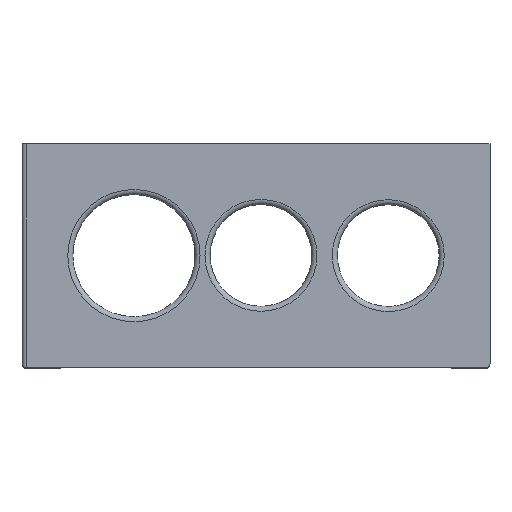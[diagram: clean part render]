
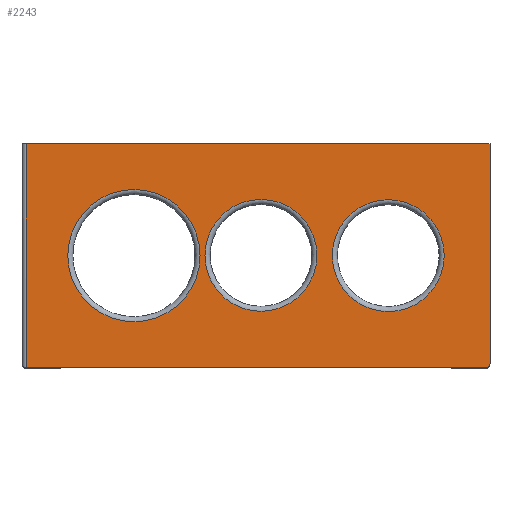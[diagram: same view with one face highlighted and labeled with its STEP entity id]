
A CAD part, top view. The second image highlights one B-rep face of the part: STEP entity #2243.
In plain terms, the highlighted planar face has unit normal (0, 0, 1).
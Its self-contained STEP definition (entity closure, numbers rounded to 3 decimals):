
#35=FACE_BOUND('',#277,.T.);
#36=FACE_BOUND('',#278,.T.);
#37=FACE_BOUND('',#279,.T.);
#68=PLANE('',#2401);
#141=FACE_OUTER_BOUND('',#276,.T.);
#276=EDGE_LOOP('',(#1559,#1560,#1561,#1562,#1563));
#277=EDGE_LOOP('',(#1564));
#278=EDGE_LOOP('',(#1565));
#279=EDGE_LOOP('',(#1566));
#436=LINE('',#3352,#654);
#438=LINE('',#3358,#656);
#451=LINE('',#3404,#669);
#452=LINE('',#3407,#670);
#654=VECTOR('',#2645,10.);
#656=VECTOR('',#2651,10.);
#669=VECTOR('',#2686,10.);
#670=VECTOR('',#2689,10.);
#883=CIRCLE('',#2402,2.);
#884=CIRCLE('',#2403,27.5);
#885=CIRCLE('',#2404,32.5);
#886=CIRCLE('',#2405,27.5);
#987=VERTEX_POINT('',#3347);
#988=VERTEX_POINT('',#3351);
#990=VERTEX_POINT('',#3357);
#1012=VERTEX_POINT('',#3403);
#1013=VERTEX_POINT('',#3405);
#1014=VERTEX_POINT('',#3408);
#1015=VERTEX_POINT('',#3410);
#1016=VERTEX_POINT('',#3412);
#1196=EDGE_CURVE('',#987,#988,#436,.T.);
#1199=EDGE_CURVE('',#988,#990,#438,.T.);
#1222=EDGE_CURVE('',#1012,#987,#451,.T.);
#1223=EDGE_CURVE('',#1013,#1012,#883,.T.);
#1224=EDGE_CURVE('',#990,#1013,#452,.T.);
#1225=EDGE_CURVE('',#1014,#1014,#884,.T.);
#1226=EDGE_CURVE('',#1015,#1015,#885,.T.);
#1227=EDGE_CURVE('',#1016,#1016,#886,.T.);
#1559=ORIENTED_EDGE('',*,*,#1196,.F.);
#1560=ORIENTED_EDGE('',*,*,#1222,.F.);
#1561=ORIENTED_EDGE('',*,*,#1223,.F.);
#1562=ORIENTED_EDGE('',*,*,#1224,.F.);
#1563=ORIENTED_EDGE('',*,*,#1199,.F.);
#1564=ORIENTED_EDGE('',*,*,#1225,.F.);
#1565=ORIENTED_EDGE('',*,*,#1226,.F.);
#1566=ORIENTED_EDGE('',*,*,#1227,.F.);
#2243=ADVANCED_FACE('',(#141,#35,#36,#37),#68,.F.);
#2401=AXIS2_PLACEMENT_3D('',#3402,#2684,#2685);
#2402=AXIS2_PLACEMENT_3D('',#3406,#2687,#2688);
#2403=AXIS2_PLACEMENT_3D('',#3409,#2690,#2691);
#2404=AXIS2_PLACEMENT_3D('',#3411,#2692,#2693);
#2405=AXIS2_PLACEMENT_3D('',#3413,#2694,#2695);
#2645=DIRECTION('',(0.,1.,0.));
#2651=DIRECTION('',(1.,0.,0.));
#2684=DIRECTION('center_axis',(0.,0.,-1.));
#2685=DIRECTION('ref_axis',(-1.,0.,0.));
#2686=DIRECTION('',(-1.,0.,0.));
#2687=DIRECTION('center_axis',(0.,0.,-1.));
#2688=DIRECTION('ref_axis',(0.707,-0.707,0.));
#2689=DIRECTION('',(0.,-1.,0.));
#2690=DIRECTION('center_axis',(0.,0.,1.));
#2691=DIRECTION('ref_axis',(-1.,0.,0.));
#2692=DIRECTION('center_axis',(0.,0.,1.));
#2693=DIRECTION('ref_axis',(-1.,0.,0.));
#2694=DIRECTION('center_axis',(0.,0.,1.));
#2695=DIRECTION('ref_axis',(-1.,0.,0.));
#3347=CARTESIAN_POINT('',(-136.501,2.824,204.994));
#3351=CARTESIAN_POINT('',(-136.501,112.824,204.994));
#3352=CARTESIAN_POINT('',(-136.501,30.324,204.994));
#3357=CARTESIAN_POINT('',(91.499,112.824,204.994));
#3358=CARTESIAN_POINT('',(-61.751,112.824,204.994));
#3402=CARTESIAN_POINT('Origin',(-23.501,57.824,204.994));
#3403=CARTESIAN_POINT('',(89.499,2.824,204.994));
#3404=CARTESIAN_POINT('',(91.499,2.824,204.994));
#3405=CARTESIAN_POINT('',(91.499,4.824,204.994));
#3406=CARTESIAN_POINT('Origin',(89.499,4.824,204.994));
#3407=CARTESIAN_POINT('',(91.499,85.324,204.994));
#3408=CARTESIAN_POINT('',(68.999,57.824,204.994));
#3409=CARTESIAN_POINT('Origin',(41.499,57.824,204.994));
#3410=CARTESIAN_POINT('',(-51.001,57.824,204.994));
#3411=CARTESIAN_POINT('Origin',(-83.501,57.824,204.994));
#3412=CARTESIAN_POINT('',(6.432,57.932,204.994));
#3413=CARTESIAN_POINT('Origin',(-21.068,57.932,204.994));
